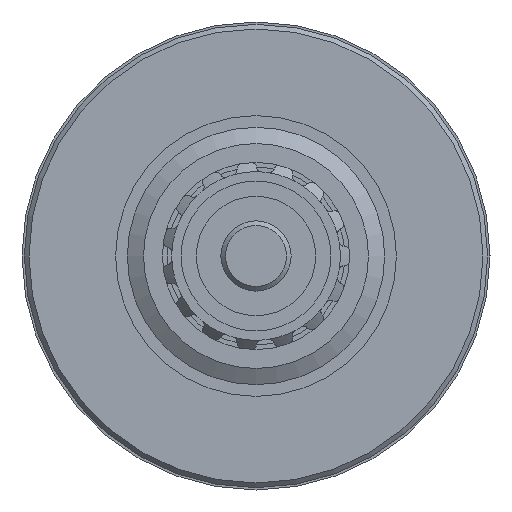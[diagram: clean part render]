
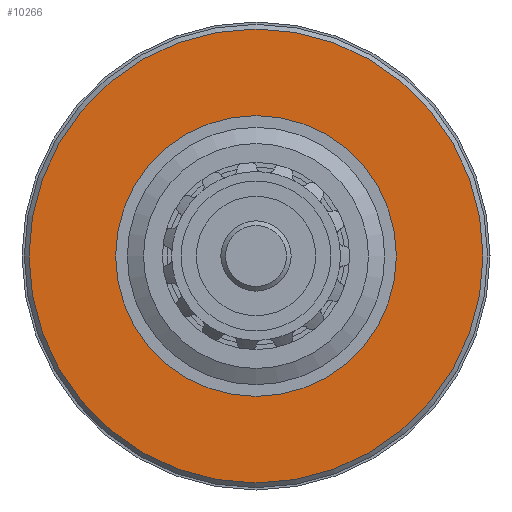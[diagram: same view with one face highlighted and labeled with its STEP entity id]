
A CAD part, left-side view. The second image highlights one B-rep face of the part: STEP entity #10266.
In plain terms, the highlighted planar face has unit normal (-1, 0, 0).
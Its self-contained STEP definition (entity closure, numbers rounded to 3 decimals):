
#347=FACE_BOUND('',#1755,.T.);
#597=PLANE('',#11284);
#1153=FACE_OUTER_BOUND('',#1754,.T.);
#1754=EDGE_LOOP('',(#8877));
#1755=EDGE_LOOP('',(#8878));
#3732=CIRCLE('',#11260,3.);
#3743=CIRCLE('',#11279,4.85);
#4635=VERTEX_POINT('',#18798);
#4646=VERTEX_POINT('',#18836);
#6039=EDGE_CURVE('',#4635,#4635,#3732,.T.);
#6059=EDGE_CURVE('',#4646,#4646,#3743,.T.);
#8877=ORIENTED_EDGE('',*,*,#6059,.T.);
#8878=ORIENTED_EDGE('',*,*,#6039,.T.);
#10266=ADVANCED_FACE('',(#1153,#347),#597,.T.);
#11260=AXIS2_PLACEMENT_3D('',#18799,#13960,#13961);
#11279=AXIS2_PLACEMENT_3D('',#18838,#14007,#14008);
#11284=AXIS2_PLACEMENT_3D('',#18845,#14018,#14019);
#13960=DIRECTION('center_axis',(1.,0.,0.));
#13961=DIRECTION('ref_axis',(0.,0.,1.));
#14007=DIRECTION('center_axis',(-1.,0.,0.));
#14008=DIRECTION('ref_axis',(0.,0.,1.));
#14018=DIRECTION('center_axis',(-1.,0.,0.));
#14019=DIRECTION('ref_axis',(0.,0.,-1.));
#18798=CARTESIAN_POINT('',(0.,0.,-3.));
#18799=CARTESIAN_POINT('Origin',(0.,0.,0.));
#18836=CARTESIAN_POINT('',(0.,0.,-4.85));
#18838=CARTESIAN_POINT('Origin',(0.,0.,0.));
#18845=CARTESIAN_POINT('Origin',(0.,0.,3.975));
